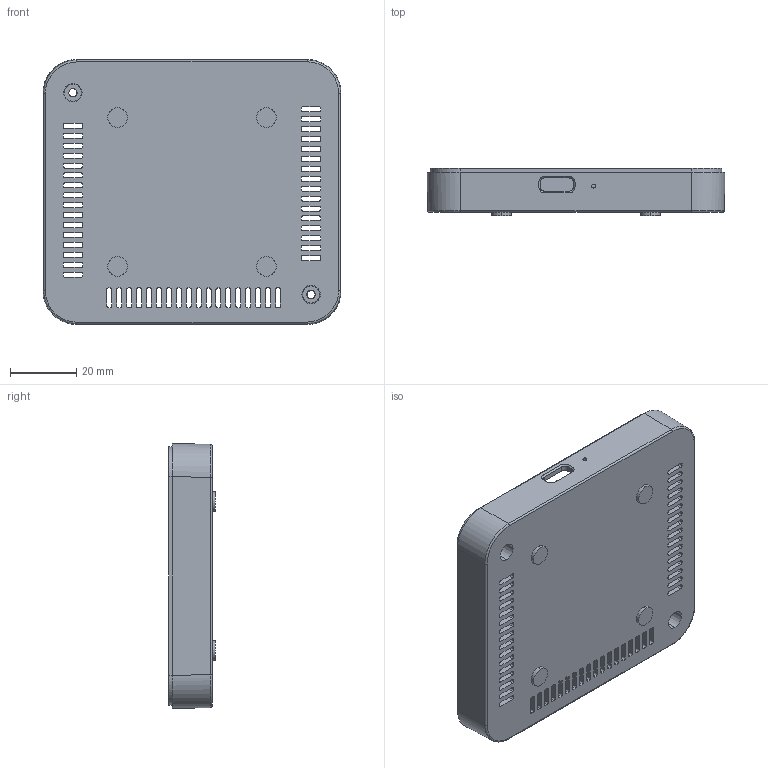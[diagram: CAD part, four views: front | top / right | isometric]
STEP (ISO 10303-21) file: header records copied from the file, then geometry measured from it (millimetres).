
FILE_DESCRIPTION (( 'STEP AP214' ), '1' );
FILE_NAME ('IR_Base.STEP', '2023-04-13T11:30:00', ( '' ), ( '' ), 'SwSTEP 2.0', 'SolidWorks 2022', '' );
FILE_SCHEMA (( 'AUTOMOTIVE_DESIGN' ));
Length unit declared in the file: millimetre
Products named in the file (1): IR_Base
Bounding box: 90.07 x 14.2 x 80.07 mm (x, y, z)
Volume: 20784.8 mm3; surface area: 23445.7 mm2
Topology: 1 solids, 1 shells, 631 faces, 1764 edges, 1149 vertices
Faces by surface type: plane 292, cylinder 263, cone 32, bspline 31, torus 13
Entity records: 21229 total; most frequent: CARTESIAN_POINT 4746, ORIENTED_EDGE 3528, DIRECTION 3358, EDGE_CURVE 1764, AXIS2_PLACEMENT_3D 1151, VERTEX_POINT 1149, LINE 1056, VECTOR 1056
